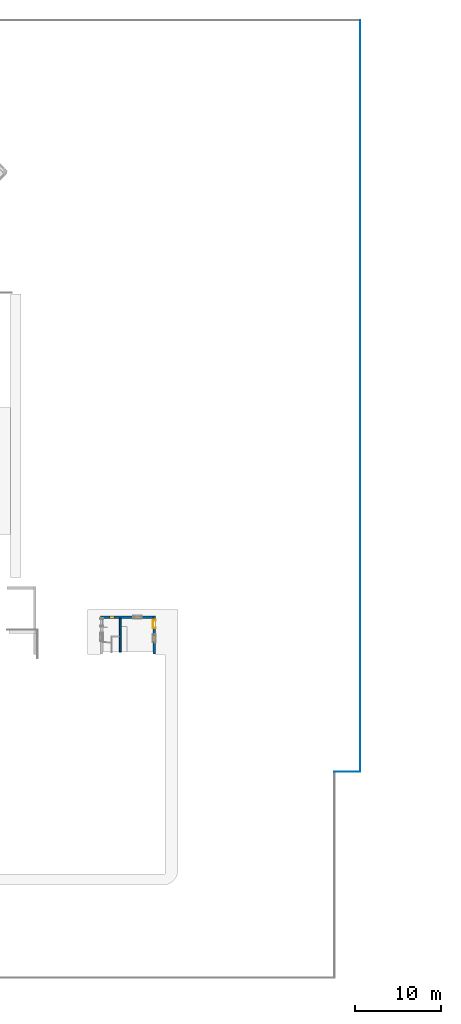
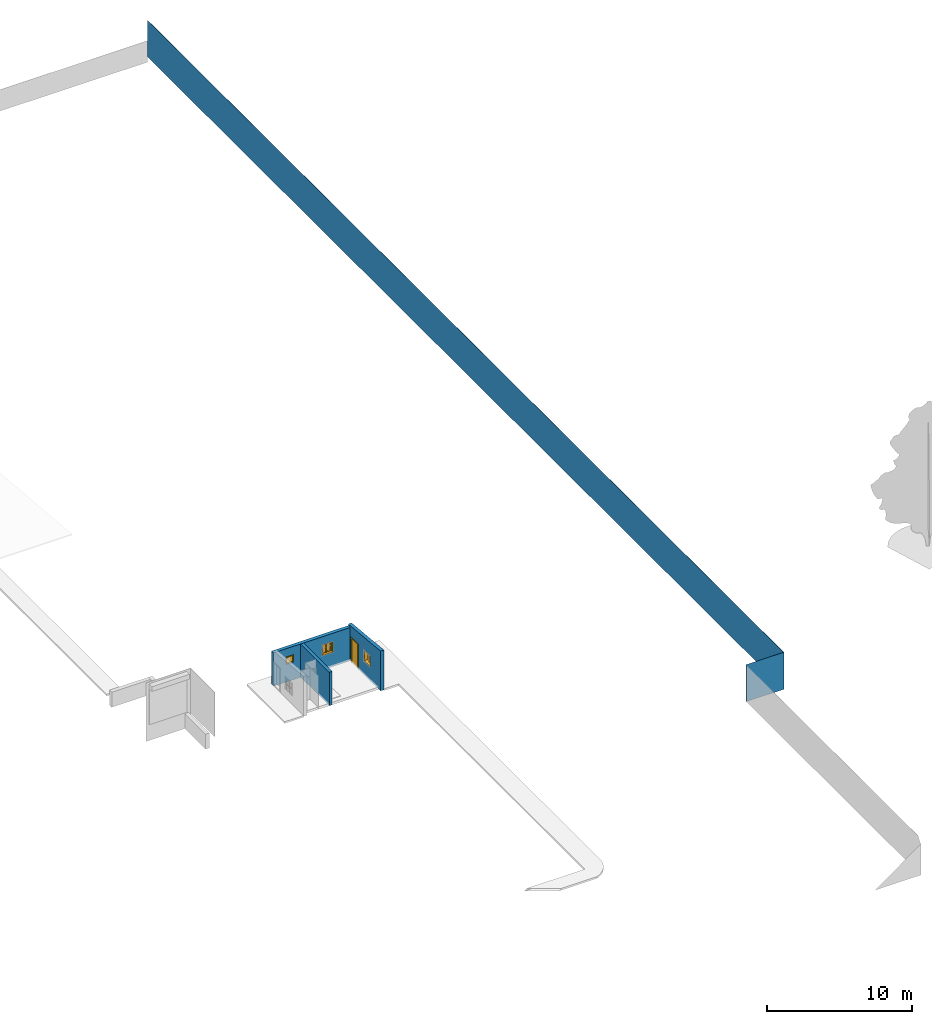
# One storey, part 6 of 16: 5 walls, 3 windows, 1 door, 4 openings.
"""IFC2X3 building model written with IfcOpenShell, lengths in millimetres."""

from ifc_helpers import new_model, entity, si_unit, converted_unit, derived_unit, direction, frame, frame_2d, origin, place, context, subcontext, project, spatial, polyline, rectangle, outline, extrude, clip, halfspace, faceted_brep, source, transform, mapped, material, material_list, layer, layer_set, layer_usage, type_object, type_shapes, element, fill, save


model = new_model("IFC2X3")

# Units and contexts
model_context = context("Model", 3, precision=0.01, world=origin(), true_north=direction((4.05803320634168e-15, -1.0)))
body_context = subcontext(model_context, "Body", "Model", "MODEL_VIEW")
ifc_project = project(units=[si_unit("LENGTHUNIT", "METRE", prefix="MILLI"), si_unit("AREAUNIT", "SQUARE_METRE"), si_unit("VOLUMEUNIT", "CUBIC_METRE"), converted_unit("PLANEANGLEUNIT", "DEGREE", entity("IfcRatioMeasure", 0.0174532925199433), si_unit("PLANEANGLEUNIT", "RADIAN"), dimensions=[0, 0, 0, 0, 0, 0, 0]), si_unit("MASSUNIT", "GRAM", prefix="KILO"), derived_unit("MASSDENSITYUNIT", [(si_unit("MASSUNIT", "GRAM", prefix="KILO"), 1), (si_unit("LENGTHUNIT", "METRE"), -3)]), si_unit("TIMEUNIT", "SECOND"), si_unit("FREQUENCYUNIT", "HERTZ"), si_unit("THERMODYNAMICTEMPERATUREUNIT", "DEGREE_CELSIUS"), derived_unit("THERMALTRANSMITTANCEUNIT", [(si_unit("MASSUNIT", "GRAM", prefix="KILO"), 1), (si_unit("THERMODYNAMICTEMPERATUREUNIT", "KELVIN"), -1), (si_unit("TIMEUNIT", "SECOND"), -3)]), derived_unit("VOLUMETRICFLOWRATEUNIT", [(si_unit("LENGTHUNIT", "METRE"), 3), (si_unit("TIMEUNIT", "SECOND"), -1)]), si_unit("ELECTRICCURRENTUNIT", "AMPERE"), si_unit("ELECTRICVOLTAGEUNIT", "VOLT"), si_unit("POWERUNIT", "WATT"), si_unit("FORCEUNIT", "NEWTON", prefix="KILO"), si_unit("ILLUMINANCEUNIT", "LUX"), si_unit("LUMINOUSFLUXUNIT", "LUMEN"), si_unit("LUMINOUSINTENSITYUNIT", "CANDELA"), derived_unit("USERDEFINED", [(si_unit("MASSUNIT", "GRAM", prefix="KILO"), -1), (si_unit("LENGTHUNIT", "METRE"), -2), (si_unit("TIMEUNIT", "SECOND"), 3), (si_unit("LUMINOUSFLUXUNIT", "LUMEN"), 1)]), derived_unit("LINEARVELOCITYUNIT", [(si_unit("LENGTHUNIT", "METRE"), 1), (si_unit("TIMEUNIT", "SECOND"), -1)]), si_unit("PRESSUREUNIT", "PASCAL"), derived_unit("USERDEFINED", [(si_unit("LENGTHUNIT", "METRE"), -2), (si_unit("MASSUNIT", "GRAM", prefix="KILO"), 1), (si_unit("TIMEUNIT", "SECOND"), -2)])], contexts=[model_context])

# Site, building, storey
site_placement = place(None, frame((927466.849349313, 583801.882853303, 0.0), z_axis=(0.0, 0.0, 1.0), x_axis=(-1.0, 0.0, 0.0)))
site = spatial("IfcSite", under=ifc_project, at=site_placement, Name="Surface", CompositionType="ELEMENT")
building_placement = place(site_placement, origin())
building = spatial("IfcBuilding", under=site, at=building_placement, CompositionType="ELEMENT")
storey_placement = place(building_placement, frame((0.0, 0.0, 42810.0)))
storey = spatial("IfcBuildingStorey", under=building, at=storey_placement, Name="Hardstand", CompositionType="ELEMENT", Elevation=42810.0)

# Wall, openings, window, door
ifc_material_1 = material(Name="Brick, Common")
ifc_layer_1 = layer(ifc_material_1, 110.0)
ifc_material_2 = material(Name="Air")
ifc_layer_2 = layer(ifc_material_2, 50.0)
ifc_layer_3 = layer(ifc_material_1, 110.0)
ifc_layer_set_1 = layer_set([ifc_layer_1, ifc_layer_2, ifc_layer_3], Name="Basic Wall:wall Brick 270")
ifc_layer_usage_1 = layer_usage(ifc_layer_set_1, "AXIS2", "NEGATIVE", 135.0)
wall_type_1 = type_object("IfcWallType", Name="Basic Wall:wall Brick 270", PredefinedType="STANDARD", material=ifc_layer_set_1)
wall_1_placement = place(storey_placement, frame((-152015.801407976, 11424.0158270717, 0.0), z_axis=(0.0, 0.0, 1.0), x_axis=(0.0, -1.0, 0.0)))
wall_1 = element("IfcWallStandardCase", 1, at=wall_1_placement, inside=storey, type_object=wall_type_1, material=ifc_layer_usage_1, Name="Basic Wall:wall Brick 270", ObjectType="Basic Wall:wall Brick 270", context=body_context, shape_type="Clipping", body=[
    clip(extrude(rectangle(XDim=4435.00000000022, YDim=270.000000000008, at=frame_2d((2217.50000000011, 2.61479726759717e-12), x_axis=(-1.0, 0.0))), origin(), (0.0, 0.0, 1.0), 3343.38312830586), halfspace(frame((0.0, -135.0, 3343.38312830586), z_axis=(0.0933508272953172, 0.0, 0.995633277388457), x_axis=(0.0, 1.0, 0.0)), False)),
])
opening_1_placement = place(wall_1_placement, frame((3094.68594012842, -135.0, 0.0)))
opening_1 = element("IfcOpeningElement", 2, at=opening_1_placement, cuts=wall_1, Name="M_Single-Flush:0813 x 2030mm:1", ObjectType="Opening", context=body_context, shape_type="SweptSolid", body=[
    extrude(rectangle(XDim=813.000000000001, YDim=2030.0, at=frame_2d((1015.0, 406.5), x_axis=(0.0, 1.0))), frame((0.0, 0.0, 0.0), z_axis=(0.0, 1.0, 0.0), x_axis=(0.0, 0.0, 1.0)), (0.0, 0.0, 1.0), 270.0),
])
opening_2_placement = place(wall_1_placement, frame((2254.84297006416, 135.0, 1176.36991928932)))
opening_2 = element("IfcOpeningElement", 3, at=opening_2_placement, cuts=wall_1, Name="M_Window-Casement-Double:850 x 900mm:1", ObjectType="Opening", context=body_context, shape_type="SweptSolid", body=[
    extrude(rectangle(XDim=899.999999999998, YDim=850.0, at=frame_2d((450.000000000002, 425.0), x_axis=(-1.0, 0.0))), frame((0.0, 0.0, 0.0), z_axis=(0.0, -1.0, 0.0), x_axis=(0.0, 0.0, 1.0)), (0.0, 0.0, 1.0), 270.0),
])
ifc_material_3 = material(Name="Wood - Stained")
ifc_material_4 = material(Name="Glass")
ifc_material_list_1 = material_list([ifc_material_3, ifc_material_4])
ifc_material_list_2 = material_list([ifc_material_3, ifc_material_4])
window_style_1 = type_object("IfcWindowStyle", Name="850 x 900mm", ConstructionType="NOTDEFINED", OperationType="NOTDEFINED", ParameterTakesPrecedence=False, Sizeable=False, material=ifc_material_list_2)
shared_shape_1 = source(origin(), body_context, "Body", "Brep", [
    faceted_brep([(434.524999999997, 289.049999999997, 887.300000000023), (415.474999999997, 289.049999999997, 887.300000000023), (415.474999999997, 238.250000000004, 887.300000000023), (434.524999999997, 238.249999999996, 887.300000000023), (434.524999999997, 289.049999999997, 12.6999999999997), (434.524999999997, 238.250000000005, 12.6999999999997), (415.474999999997, 238.249999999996, 12.6999999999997), (415.474999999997, 289.049999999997, 12.6999999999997), (415.474999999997, 238.249999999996, 31.7499999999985), (415.474999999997, 238.250000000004, 868.250000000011), (394.8375, 238.250000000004, 31.7499999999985), (394.8375, 238.250000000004, 868.250000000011), (394.8375, 174.75, 31.7499999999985), (394.8375, 174.75, 868.250000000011), (455.1625, 174.75, 31.7499999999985), (455.1625, 174.75, 868.250000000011), (455.1625, 238.250000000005, 31.7499999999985), (455.1625, 238.250000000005, 868.250000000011), (434.524999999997, 238.250000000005, 31.7499999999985), (434.524999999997, 238.250000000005, 868.250000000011)], [[[0, 1, 2, 3]], [[4, 5, 6, 7]], [[1, 0, 4, 7]], [[2, 1, 7, 6, 8, 9]], [[9, 8, 10, 11]], [[11, 10, 12, 13]], [[13, 12, 14, 15]], [[15, 14, 16, 17]], [[17, 16, 18, 19]], [[0, 3, 19, 18, 5, 4]], [[18, 8, 6, 5]], [[8, 18, 16, 14, 12, 10]], [[19, 9, 11, 13, 15, 17]], [[9, 19, 3, 2]]]),
    faceted_brep([(358.324999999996, 270.0, 830.150000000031), (69.8499999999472, 270.0, 830.150000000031), (69.8499999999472, 263.650000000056, 830.150000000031), (358.324999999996, 263.650000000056, 830.150000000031), (358.324999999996, 270.0, 69.8499999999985), (69.8499999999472, 270.0, 69.8499999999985), (69.8499999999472, 263.650000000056, 69.8499999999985), (358.324999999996, 263.650000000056, 69.8499999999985)], [[[0, 1, 2, 3]], [[1, 0, 4, 5]], [[2, 1, 5, 6]], [[3, 2, 6, 7]], [[0, 3, 7, 4]], [[4, 7, 6, 5]]]),
    faceted_brep([(69.8499999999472, 250.949999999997, 69.8499999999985), (69.8499999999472, 257.300000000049, 69.8499999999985), (358.324999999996, 257.300000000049, 69.8499999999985), (358.324999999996, 250.949999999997, 69.8499999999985), (358.324999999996, 250.949999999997, 830.150000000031), (69.8499999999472, 250.949999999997, 830.150000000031), (358.324999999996, 257.300000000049, 830.150000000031), (69.8499999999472, 257.300000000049, 830.150000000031)], [[[0, 1, 2, 3]], [[4, 5, 0, 3]], [[6, 4, 3, 2]], [[7, 6, 2, 1]], [[5, 7, 1, 0]], [[5, 4, 6, 7]]]),
    faceted_brep([(780.149999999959, 270.0, 830.150000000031), (491.674999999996, 270.0, 830.150000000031), (491.674999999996, 263.650000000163, 830.150000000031), (780.149999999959, 263.650000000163, 830.150000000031), (780.149999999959, 270.0, 69.8499999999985), (491.674999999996, 270.0, 69.8499999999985), (491.674999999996, 263.650000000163, 69.8499999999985), (780.149999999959, 263.650000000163, 69.8499999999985)], [[[0, 1, 2, 3]], [[1, 0, 4, 5]], [[2, 1, 5, 6]], [[3, 2, 6, 7]], [[0, 3, 7, 4]], [[4, 7, 6, 5]]]),
    faceted_brep([(491.674999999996, 250.949999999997, 69.8499999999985), (491.674999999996, 257.300000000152, 69.8499999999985), (780.149999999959, 257.300000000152, 69.8499999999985), (780.149999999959, 250.949999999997, 69.8499999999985), (780.149999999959, 250.949999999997, 830.150000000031), (491.674999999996, 250.949999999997, 830.150000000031), (780.149999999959, 257.300000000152, 830.150000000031), (491.674999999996, 257.300000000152, 830.150000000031)], [[[0, 1, 2, 3]], [[4, 5, 0, 3]], [[6, 4, 3, 2]], [[7, 6, 2, 1]], [[5, 7, 1, 0]], [[5, 4, 6, 7]]]),
    faceted_brep([(415.474999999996, 238.249999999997, 887.300000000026), (415.474999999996, 282.699999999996, 887.300000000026), (12.6999999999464, 282.699999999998, 887.300000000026), (12.6999999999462, 238.249999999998, 887.300000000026), (358.324999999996, 282.699999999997, 830.150000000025), (358.324999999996, 238.249999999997, 830.150000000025), (69.8499999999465, 238.249999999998, 830.150000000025), (69.8499999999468, 282.699999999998, 830.150000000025), (12.6999999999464, 282.699999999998, 12.7000000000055), (12.6999999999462, 238.249999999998, 12.7000000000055), (69.8499999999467, 238.249999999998, 69.8500000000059), (69.8499999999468, 282.699999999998, 69.8500000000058), (415.474999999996, 282.699999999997, 12.7000000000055), (415.474999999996, 238.249999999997, 12.7000000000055), (358.324999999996, 238.249999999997, 69.8500000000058), (358.324999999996, 282.699999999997, 69.8500000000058)], [[[0, 1, 2, 3]], [[4, 5, 6, 7]], [[3, 2, 8, 9]], [[7, 6, 10, 11]], [[9, 8, 12, 13]], [[11, 10, 14, 15]], [[7, 11, 15, 4], [1, 12, 8, 2]], [[13, 12, 1, 0]], [[3, 9, 13, 0], [5, 14, 10, 6]], [[15, 14, 5, 4]]], outer=[[True], [True], [True], [True], [True], [True], [False, True], [True], [True, False], [True]]),
    faceted_brep([(780.149999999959, 238.249999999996, 69.8500000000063), (780.149999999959, 282.699999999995, 69.8500000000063), (491.674999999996, 282.699999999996, 69.8500000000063), (491.674999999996, 238.249999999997, 69.8500000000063), (837.299999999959, 282.699999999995, 12.7000000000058), (837.299999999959, 238.249999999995, 12.7000000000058), (434.524999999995, 238.249999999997, 12.7000000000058), (434.524999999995, 282.699999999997, 12.7000000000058), (491.674999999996, 282.699999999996, 830.150000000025), (491.674999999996, 238.249999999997, 830.150000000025), (434.524999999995, 238.249999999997, 887.300000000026), (434.524999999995, 282.699999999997, 887.300000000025), (780.149999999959, 282.699999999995, 830.150000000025), (780.149999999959, 238.249999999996, 830.150000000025), (837.299999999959, 238.249999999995, 887.300000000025), (837.299999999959, 282.699999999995, 887.300000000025)], [[[0, 1, 2, 3]], [[4, 5, 6, 7]], [[3, 2, 8, 9]], [[7, 6, 10, 11]], [[9, 8, 12, 13]], [[11, 10, 14, 15]], [[13, 12, 1, 0]], [[3, 9, 13, 0], [5, 14, 10, 6]], [[15, 14, 5, 4]], [[7, 11, 15, 4], [1, 12, 8, 2]]], outer=[[True], [True], [True], [True], [True], [True], [True], [False, True], [True], [True, False]]),
    faceted_brep([(0.0, 0.0, 900.0), (0.0, 0.0, 0.0), (850.0, 0.0, 0.0), (850.0, 0.0, 900.0), (830.950000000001, 0.0, 880.949999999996), (830.950000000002, 0.0, 19.0499999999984), (19.0499999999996, 0.0, 19.0499999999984), (19.0499999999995, 0.0, 880.949999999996), (0.0, 174.75, 900.0), (850.0, 174.75, 900.0), (850.0, 174.75, 0.0), (0.0, 174.75, 0.0), (830.950000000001, 174.75, 880.949999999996), (19.0499999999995, 174.75, 880.949999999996), (19.0499999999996, 174.75, 19.0499999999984), (830.950000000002, 174.75, 19.0499999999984)], [[[0, 1, 2, 3], [4, 5, 6, 7]], [[8, 9, 10, 11], [12, 13, 14, 15]], [[1, 0, 8, 11]], [[2, 1, 11, 10]], [[3, 2, 10, 9]], [[0, 3, 9, 8]], [[5, 4, 12, 15]], [[6, 5, 15, 14]], [[7, 6, 14, 13]], [[4, 7, 13, 12]]]),
    faceted_brep([(818.250000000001, 238.249999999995, 868.249999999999), (818.250000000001, 174.749999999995, 868.249999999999), (31.7499999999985, 174.749999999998, 868.249999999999), (31.7499999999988, 238.249999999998, 868.249999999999), (837.300000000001, 289.049999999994, 887.299999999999), (837.300000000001, 238.249999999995, 887.299999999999), (12.699999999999, 238.249999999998, 887.299999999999), (12.6999999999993, 289.049999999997, 887.299999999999), (850.0, 174.749999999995, 900.0), (850.0, 289.049999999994, 900.0), (0.0, 289.049999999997, 900.0), (0.0, 174.749999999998, 900.0), (31.7499999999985, 174.749999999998, 31.7499999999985), (31.7499999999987, 238.249999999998, 31.7499999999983), (12.6999999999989, 238.249999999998, 12.6999999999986), (12.6999999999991, 289.049999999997, 12.6999999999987), (0.0, 289.049999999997, 0.0), (0.0, 174.749999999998, 0.0), (818.250000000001, 174.749999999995, 31.7499999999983), (818.250000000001, 238.249999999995, 31.7499999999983), (837.300000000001, 238.249999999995, 12.6999999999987), (837.300000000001, 289.049999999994, 12.6999999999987), (850.0, 289.049999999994, 0.0), (850.0, 174.749999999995, 0.0)], [[[0, 1, 2, 3]], [[4, 5, 6, 7]], [[8, 9, 10, 11]], [[3, 2, 12, 13]], [[7, 6, 14, 15]], [[11, 10, 16, 17]], [[13, 12, 18, 19]], [[15, 14, 20, 21]], [[17, 16, 22, 23]], [[11, 17, 23, 8], [1, 18, 12, 2]], [[19, 18, 1, 0]], [[3, 13, 19, 0], [5, 20, 14, 6]], [[21, 20, 5, 4]], [[23, 22, 9, 8]], [[7, 15, 21, 4], [9, 22, 16, 10]]], outer=[[True], [True], [True], [True], [True], [True], [True], [True], [True], [True, False], [True], [False, True], [True], [True], [False, True]]),
])
type_shapes(window_style_1, [shared_shape_1])
window_1_placement = place(opening_2_placement, frame((0.0, 0.0, 0.0), z_axis=(0.0, 0.0, 1.0), x_axis=(-1.0, 0.0, 0.0)))
window_1 = element("IfcWindow", 4, at=window_1_placement, inside=storey, type_object=window_style_1, material=ifc_material_list_1, Name="M_Window-Casement-Double:850 x 900mm", ObjectType="850 x 900mm", OverallHeight=900.000000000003, OverallWidth=850.0, context=body_context, shape_type="MappedRepresentation", body=[
    mapped(shared_shape_1, transform((0.0, 0.0, 0.0), scale=1.0)),
])
fill(opening_2, window_1)
ifc_material_5 = material(Name="Door - Frame")
ifc_material_6 = material(Name="Door - Panel")
ifc_material_list_3 = material_list([ifc_material_5, ifc_material_6])
ifc_material_list_4 = material_list([ifc_material_5, ifc_material_6])
door_style = type_object("IfcDoorStyle", Name="0813 x 2030mm", ConstructionType="NOTDEFINED", OperationType="SINGLE_SWING_RIGHT", ParameterTakesPrecedence=False, Sizeable=False, material=ifc_material_list_4)
shared_shape_2 = source(origin(), body_context, "Body", "SweptSolid", [
    extrude(outline(polyline([(-482.5, -1072.0), (482.5, -1072.0), (482.5, 1034.0), (406.5, 1034.0), (406.5, -996.0), (-406.5, -996.0), (-406.5, 1034.0), (-482.5, 1034.0), (-482.5, -1072.0)])), frame((406.500000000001, 270.0, 1034.0), z_axis=(0.0, 1.0, 0.0), x_axis=(1.0, 0.0, 0.0)), (0.0, 0.0, 1.0), 24.9999999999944),
    extrude(outline(polyline([(-1072.0, -482.499999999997), (1034.0, -482.499999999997), (1034.0, -406.500000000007), (-996.0, -406.500000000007), (-996.0, 406.500000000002), (1034.0, 406.500000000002), (1034.0, 482.500000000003), (-1072.0, 482.500000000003), (-1072.0, -482.499999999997)])), frame((406.500000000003, -25.0, 1034.0), z_axis=(0.0, 1.0, 0.0), x_axis=(0.0, 0.0, -1.0)), (0.0, 0.0, 1.0), 25.0000000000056),
    extrude(rectangle(XDim=51.0, YDim=813.0, at=frame_2d((8.88178419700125e-15, 0.0), x_axis=(1.0, 0.0))), frame((406.5, 244.499999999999, 0.0), z_axis=(0.0, 0.0, 1.0), x_axis=(0.0, 1.0, 0.0)), (0.0, 0.0, 1.0), 2030.0),
])
type_shapes(door_style, [shared_shape_2])
door_placement = place(opening_1_placement, origin())
door = element("IfcDoor", 5, at=door_placement, inside=storey, type_object=door_style, material=ifc_material_list_3, Name="M_Single-Flush:0813 x 2030mm", ObjectType="0813 x 2030mm", OverallHeight=2030.0, OverallWidth=813.000000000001, context=body_context, shape_type="MappedRepresentation", body=[
    mapped(shared_shape_2, transform((0.0, 0.0, 0.0), scale=1.0)),
])
fill(opening_1, door)

# Wall, openings, windows
ifc_layer_usage_2 = layer_usage(ifc_layer_set_1, "AXIS2", "NEGATIVE", 135.0)
wall_2_placement = place(storey_placement, frame((-151880.801407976, 7124.0158270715, 0.0)))
wall_2 = element("IfcWallStandardCase", 6, at=wall_2_placement, inside=storey, type_object=wall_type_1, material=ifc_layer_usage_2, Name="Basic Wall:wall Brick 270", ObjectType="Basic Wall:wall Brick 270", context=body_context, shape_type="SweptSolid", body=[
    extrude(rectangle(XDim=6100.25555844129, YDim=269.999999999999, at=frame_2d((3050.12777922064, -2.27373675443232e-13), x_axis=(-1.0, 0.0))), origin(), (0.0, 0.0, 1.0), 2799.99999999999),
])
opening_3_placement = place(wall_2_placement, frame((2225.99694154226, 135.0, 1213.68641480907)))
opening_3 = element("IfcOpeningElement", 7, at=opening_3_placement, cuts=wall_2, Name="M_Window-Casement-Double:850 x 900mm:1", ObjectType="Opening", context=body_context, shape_type="SweptSolid", body=[
    extrude(rectangle(XDim=899.999999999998, YDim=850.0, at=frame_2d((450.000000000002, 425.0), x_axis=(-1.0, 0.0))), frame((0.0, 0.0, 0.0), z_axis=(0.0, -1.0, 0.0), x_axis=(0.0, 0.0, 1.0)), (0.0, 0.0, 1.0), 270.0),
])
opening_4_placement = place(wall_2_placement, frame((4485.25555844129, -135.0, 1490.0)))
opening_4 = element("IfcOpeningElement", 8, at=opening_4_placement, cuts=wall_2, Name="M_Fixed:0610 x 0610mm:1", ObjectType="Opening", context=body_context, shape_type="SweptSolid", body=[
    extrude(rectangle(XDim=609.999999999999, YDim=609.999999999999, at=frame_2d((305.0, 305.0), x_axis=(1.0, 0.0))), frame((0.0, 0.0, 0.0), z_axis=(0.0, 1.0, 0.0), x_axis=(0.0, 0.0, 1.0)), (0.0, 0.0, 1.0), 270.0),
])
ifc_material_list_5 = material_list([ifc_material_3, ifc_material_4])
window_2_placement = place(opening_3_placement, frame((0.0, 0.0, 0.0), z_axis=(0.0, 0.0, 1.0), x_axis=(-1.0, 0.0, 0.0)))
window_2 = element("IfcWindow", 9, at=window_2_placement, inside=storey, type_object=window_style_1, material=ifc_material_list_5, Name="M_Window-Casement-Double:850 x 900mm", ObjectType="850 x 900mm", OverallHeight=900.000000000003, OverallWidth=849.999999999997, context=body_context, shape_type="MappedRepresentation", body=[
    mapped(shared_shape_1, transform((0.0, 0.0, 0.0), scale=1.0)),
])
fill(opening_3, window_2)
ifc_material_7 = material(Name="Sash")
ifc_material_list_6 = material_list([ifc_material_4, ifc_material_7])
ifc_material_list_7 = material_list([ifc_material_4, ifc_material_7])
window_style_2 = type_object("IfcWindowStyle", Name="0610 x 0610mm", ConstructionType="NOTDEFINED", OperationType="NOTDEFINED", ParameterTakesPrecedence=False, Sizeable=False, material=ifc_material_list_7)
shared_shape_3 = source(origin(), body_context, "Body", "SweptSolid", [
    extrude(rectangle(XDim=12.0, YDim=483.999999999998, at=frame_2d((-8.43769498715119e-15, 0.0), x_axis=(1.0, 0.0))), frame((305.0, 229.0, 63.0), z_axis=(0.0, 0.0, 1.0), x_axis=(0.0, -1.0, 0.0)), (0.0, 0.0, 1.0), 484.000000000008),
    extrude(outline(polyline([(-286.0, -286.0), (286.0, -286.0), (286.0, 286.0), (-286.0, 286.0), (-286.0, -286.0)]), holes=[polyline([(-242.0, -242.0), (-242.0, 242.0), (242.0, 242.0), (242.0, -242.0), (-242.0, -242.0)])]), frame((305.0, 207.0, 305.0), z_axis=(0.0, 1.0, 0.0), x_axis=(1.0, 0.0, 0.0)), (0.0, 0.0, 1.0), 44.0000000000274),
    extrude(outline(polyline([(-305.0, -305.0), (305.0, -305.0), (305.0, 305.0), (-305.0, 305.0), (-305.0, -305.0)]), holes=[polyline([(-286.0, -286.0), (-286.0, 286.0), (286.0, 286.0), (286.0, -286.0), (-286.0, -286.0)])]), frame((305.0, 207.0, 305.0), z_axis=(0.0, 1.0, 0.0), x_axis=(1.0, 0.0, 0.0)), (0.0, 0.0, 1.0), 63.0000000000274),
    extrude(outline(polyline([(-305.0, -305.0), (305.0, -305.0), (305.0, 305.0), (-305.0, 305.0), (-305.0, -305.0)]), holes=[polyline([(-273.0, -273.0), (-273.0, 273.0), (273.0, 273.0), (273.0, -273.0), (-273.0, -273.0)])]), frame((305.0, 0.0, 305.0), z_axis=(0.0, 1.0, 0.0), x_axis=(1.0, 0.0, 0.0)), (0.0, 0.0, 1.0), 206.999999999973),
])
type_shapes(window_style_2, [shared_shape_3])
window_3_placement = place(opening_4_placement, origin())
window_3 = element("IfcWindow", 10, at=window_3_placement, inside=storey, type_object=window_style_2, material=ifc_material_list_6, Name="M_Fixed:0610 x 0610mm", ObjectType="0610 x 0610mm", OverallHeight=610.0, OverallWidth=610.0, context=body_context, shape_type="MappedRepresentation", body=[
    mapped(shared_shape_3, transform((0.0, 0.0, 0.0), scale=1.0)),
])
fill(opening_4, window_3)

# Walls
ifc_material_8 = material(Name="fence")
ifc_layer_4 = layer(ifc_material_8, 10.0)
ifc_layer_set_2 = layer_set([ifc_layer_4], Name="Basic Wall:fence")
ifc_layer_usage_3 = layer_usage(ifc_layer_set_2, "AXIS2", "NEGATIVE", 5.0)
wall_type_2 = type_object("IfcWallType", Name="Basic Wall:fence", PredefinedType="STANDARD", material=ifc_layer_set_2)
wall_3_placement = place(storey_placement, frame((-176016.722727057, -62437.9895560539, 0.0), z_axis=(0.0, 0.0, 1.0), x_axis=(0.0, 1.0, 0.0)))
element("IfcWallStandardCase", 11, at=wall_3_placement, inside=storey, type_object=wall_type_2, material=ifc_layer_usage_3, Name="Basic Wall:fence", ObjectType="Basic Wall:fence", context=body_context, shape_type="SweptSolid", body=[
    extrude(outline(polyline([(87548.9774667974, -5.0), (87548.9774667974, 5.0), (0.0, 5.0), (0.00585266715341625, -5.0), (87538.9774667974, -5.0), (87548.9774667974, -5.0)])), origin(), (0.0, 0.0, 1.0), 3080.78500690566),
])
ifc_layer_usage_4 = layer_usage(ifc_layer_set_2, "AXIS2", "NEGATIVE", 5.0)
wall_4_placement = place(storey_placement, frame((-176011.722727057, 25105.9879107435, 0.0)))
element("IfcWallStandardCase", 12, at=wall_4_placement, inside=storey, type_object=wall_type_2, material=ifc_layer_usage_4, Name="Basic Wall:fence", ObjectType="Basic Wall:fence", context=body_context, shape_type="SweptSolid", body=[
    extrude(rectangle(XDim=2994.99688491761, YDim=9.99999999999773, at=frame_2d((1497.49844245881, -8.57092175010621e-13), x_axis=(-1.0, 0.0))), origin(), (0.0, 0.0, 1.0), 3107.37056858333),
])
ifc_layer_5 = layer(ifc_material_1, 230.0)
ifc_layer_set_3 = layer_set([ifc_layer_5], Name="Basic Wall:wall Brick 230")
ifc_layer_usage_5 = layer_usage(ifc_layer_set_3, "AXIS2", "NEGATIVE", 115.0)
wall_type_3 = type_object("IfcWallType", Name="Basic Wall:wall Brick 230", PredefinedType="STANDARD", material=ifc_layer_set_3)
wall_5_placement = place(storey_placement, frame((-148065.545849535, 7259.01582707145, 0.0), z_axis=(0.0, 0.0, 1.0), x_axis=(0.0, 1.0, 0.0)))
element("IfcWallStandardCase", 13, at=wall_5_placement, inside=storey, type_object=wall_type_3, material=ifc_layer_usage_5, Name="Basic Wall:wall Brick 230", ObjectType="Basic Wall:wall Brick 230", context=body_context, shape_type="SweptSolid", body=[
    extrude(rectangle(XDim=3935.00000000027, YDim=230.000000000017, at=frame_2d((1967.50000000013, 8.04334376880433e-12), x_axis=(-1.0, 0.0))), origin(), (0.0, 0.0, 1.0), 2799.99999999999),
])

save(model, "model.ifc")
